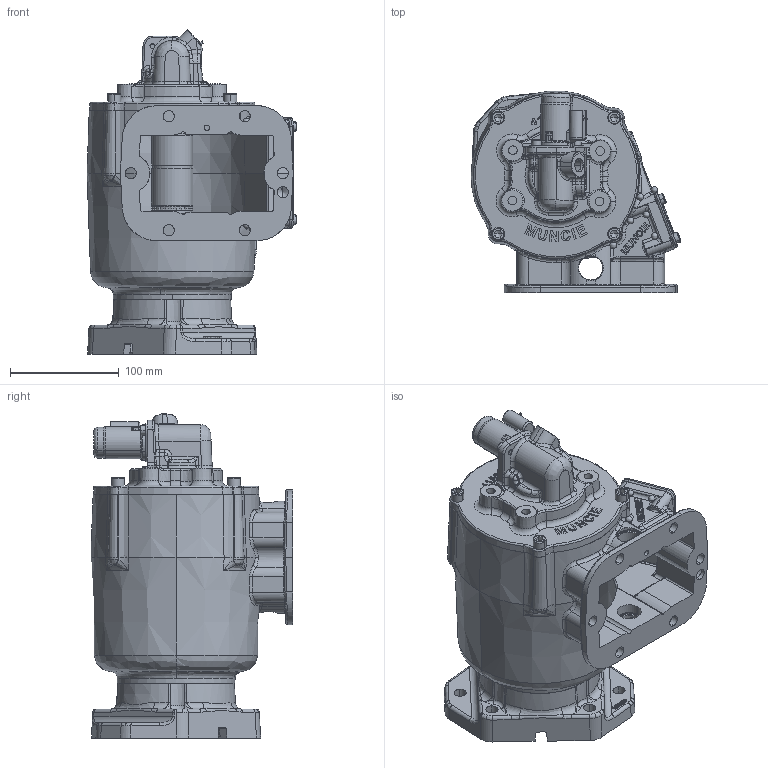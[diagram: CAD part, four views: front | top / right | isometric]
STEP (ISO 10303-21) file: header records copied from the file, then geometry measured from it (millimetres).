
FILE_DESCRIPTION (( 'STEP AP203' ), '1' );
FILE_NAME ('CS6B-XXXXX-S1PX.STEP', '2023-06-02T19:57:03', ( '' ), ( '' ), 'SwSTEP 2.0', 'SolidWorks 2021', '' );
FILE_SCHEMA (( 'CONFIG_CONTROL_DESIGN' ));
Length unit declared in the file: inch
Products named in the file (18): 12T34003; 11T37790; 06t36893_06T36893; 16T41119; CS6B-XXXXX-S1PX; 19T34462-1; 19T40859; 12T36471; 19T41118; 15T41597; 11T36124-1; 14T37779; 36MCL100-1; 19T35237; 01T36713; 12T36751; 24T36894; 35T40860-1
Assembly tree (28 placements, depth 2):
  CS6B-XXXXX-S1PX
    01T36713
    06t36893_06T36893
    11T36124-1
    11T37790
    12T34003
    12T36471  x2
    12T36751
    14T37779
    15T41597
    16T41119
    19T34462-1  x4
    19T35237  x4
    19T40859  x2
    24T36894
    35T40860-1
    36MCL100-1
    19T41118  x4
Bounding box: 192.82 x 185.25 x 297.84 mm (x, y, z)
Volume: 1689409.5 mm3; surface area: 488718.5 mm2
Topology: 29 solids, 29 shells, 4939 faces, 13097 edges, 8354 vertices
Faces by surface type: plane 1919, bspline 1690, cylinder 854, cone 322, torus 146, sphere 8
Entity records: 270835 total; most frequent: CARTESIAN_POINT 164336, ORIENTED_EDGE 24878, DIRECTION 16326, EDGE_CURVE 12439, VERTEX_POINT 8024, VECTOR 5908, LINE 5908, AXIS2_PLACEMENT_3D 5209
